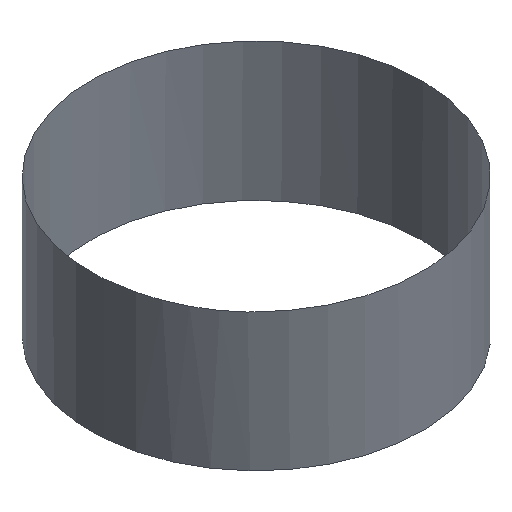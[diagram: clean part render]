
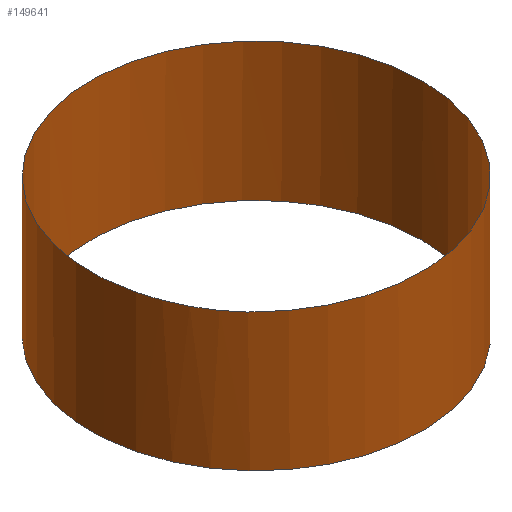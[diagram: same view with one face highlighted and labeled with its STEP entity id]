
A CAD part, isometric view. The second image highlights one B-rep face of the part: STEP entity #149641.
In plain terms, the highlighted cylindrical face has radius 3 mm (diameter 6 mm), a full revolution.
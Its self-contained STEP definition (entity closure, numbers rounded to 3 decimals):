
#4965=B_SPLINE_CURVE_WITH_KNOTS('',3,(#258657,#258658,#258659,#258660,#258661),
 .UNSPECIFIED.,.F.,.F.,(4,1,4),(0.,0.118,
0.276),.UNSPECIFIED.);
#7798=CYLINDRICAL_SURFACE('',#166481,3.);
#20186=FACE_BOUND('',#35895,.T.);
#24842=FACE_OUTER_BOUND('',#35894,.T.);
#35894=EDGE_LOOP('',(#110351));
#35895=EDGE_LOOP('',(#110352,#110353));
#50299=CIRCLE('',#166479,3.);
#50301=CIRCLE('',#166482,3.);
#64826=VERTEX_POINT('',#258622);
#64827=VERTEX_POINT('',#258624);
#64828=VERTEX_POINT('',#258663);
#81067=EDGE_CURVE('',#64826,#64827,#50299,.T.);
#81070=EDGE_CURVE('',#64827,#64826,#4965,.T.);
#81071=EDGE_CURVE('',#64828,#64828,#50301,.T.);
#110351=ORIENTED_EDGE('',*,*,#81071,.F.);
#110352=ORIENTED_EDGE('',*,*,#81067,.F.);
#110353=ORIENTED_EDGE('',*,*,#81070,.F.);
#149641=ADVANCED_FACE('',(#24842,#20186),#7798,.F.);
#166479=AXIS2_PLACEMENT_3D('',#258625,#202776,#202777);
#166481=AXIS2_PLACEMENT_3D('',#258662,#202780,#202781);
#166482=AXIS2_PLACEMENT_3D('',#258664,#202782,#202783);
#202776=DIRECTION('center_axis',(0.,0.,-1.));
#202777=DIRECTION('ref_axis',(0.782,0.623,0.));
#202780=DIRECTION('center_axis',(0.,0.,-1.));
#202781=DIRECTION('ref_axis',(-1.,0.,0.));
#202782=DIRECTION('center_axis',(0.,0.,1.));
#202783=DIRECTION('ref_axis',(-1.,0.,0.));
#258622=CARTESIAN_POINT('',(-18.545,-13.207,6.25));
#258624=CARTESIAN_POINT('',(-17.002,-15.141,6.25));
#258625=CARTESIAN_POINT('Origin',(-15.637,-12.47,6.25));
#258657=CARTESIAN_POINT('Ctrl Pts',(-17.002,-15.141,6.25));
#258658=CARTESIAN_POINT('Ctrl Pts',(-17.327,-14.975,6.25));
#258659=CARTESIAN_POINT('Ctrl Pts',(-18.012,-14.449,6.228));
#258660=CARTESIAN_POINT('Ctrl Pts',(-18.425,-13.678,6.25));
#258661=CARTESIAN_POINT('Ctrl Pts',(-18.545,-13.207,6.25));
#258662=CARTESIAN_POINT('Origin',(-15.637,-12.47,6.5));
#258663=CARTESIAN_POINT('',(-12.637,-12.47,3.75));
#258664=CARTESIAN_POINT('Origin',(-15.637,-12.47,3.75));
